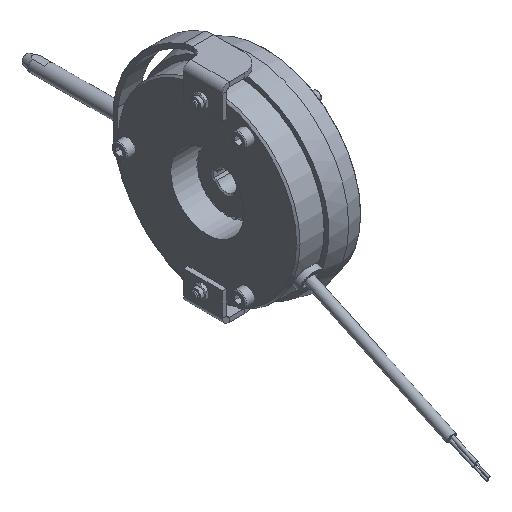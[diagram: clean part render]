
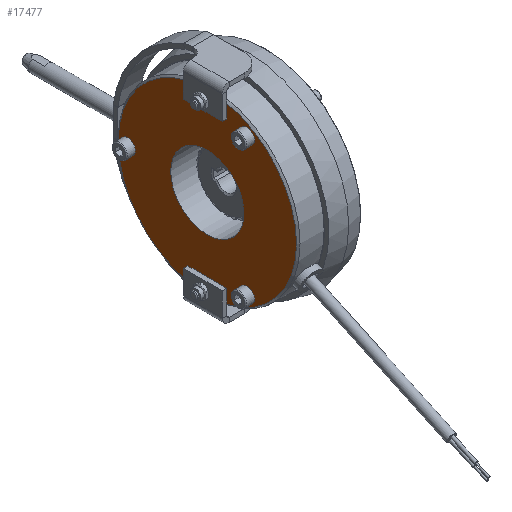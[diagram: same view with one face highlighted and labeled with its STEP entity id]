
A CAD part, isometric view. The second image highlights one B-rep face of the part: STEP entity #17477.
In plain terms, the highlighted planar face has unit normal (-1, 0, 0).
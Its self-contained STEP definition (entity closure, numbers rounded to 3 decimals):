
#199=FACE_BOUND('',#4757,.T.);
#200=FACE_BOUND('',#4758,.T.);
#201=FACE_BOUND('',#4759,.T.);
#202=FACE_BOUND('',#4760,.T.);
#637=PLANE('',#19102);
#1594=LINE('',#35509,#2606);
#1600=LINE('',#35526,#2612);
#1604=LINE('',#35532,#2616);
#1615=LINE('',#35561,#2627);
#1622=LINE('',#35577,#2634);
#1624=LINE('',#35580,#2636);
#2606=VECTOR('',#22901,10.);
#2612=VECTOR('',#22921,10.);
#2616=VECTOR('',#22927,10.);
#2627=VECTOR('',#22956,10.);
#2634=VECTOR('',#22973,10.);
#2636=VECTOR('',#22977,10.);
#3834=FACE_OUTER_BOUND('',#4756,.T.);
#4756=EDGE_LOOP('',(#15529,#15530,#15531,#15532,#15533,#15534,#15535,#15536,
#15537));
#4757=EDGE_LOOP('',(#15538,#15539));
#4758=EDGE_LOOP('',(#15540,#15541));
#4759=EDGE_LOOP('',(#15542,#15543));
#4760=EDGE_LOOP('',(#15544));
#5773=CIRCLE('',#18245,4.25);
#5774=CIRCLE('',#18246,4.25);
#5787=CIRCLE('',#18273,4.25);
#5788=CIRCLE('',#18274,4.25);
#5801=CIRCLE('',#18301,4.25);
#5802=CIRCLE('',#18302,4.25);
#6200=CIRCLE('',#19099,50.5);
#6201=CIRCLE('',#19100,50.5);
#6202=CIRCLE('',#19101,50.5);
#6203=CIRCLE('',#19103,20.75);
#7124=VERTEX_POINT('',#30756);
#7125=VERTEX_POINT('',#30757);
#7151=VERTEX_POINT('',#30848);
#7152=VERTEX_POINT('',#30849);
#7178=VERTEX_POINT('',#30940);
#7179=VERTEX_POINT('',#30941);
#7805=VERTEX_POINT('',#35434);
#7806=VERTEX_POINT('',#35435);
#7834=VERTEX_POINT('',#35506);
#7835=VERTEX_POINT('',#35508);
#7836=VERTEX_POINT('',#35512);
#7839=VERTEX_POINT('',#35525);
#7849=VERTEX_POINT('',#35560);
#7853=VERTEX_POINT('',#35575);
#7935=VERTEX_POINT('',#36019);
#7936=VERTEX_POINT('',#36025);
#9235=EDGE_CURVE('',#7124,#7125,#5773,.T.);
#9236=EDGE_CURVE('',#7125,#7124,#5774,.T.);
#9272=EDGE_CURVE('',#7151,#7152,#5787,.T.);
#9273=EDGE_CURVE('',#7152,#7151,#5788,.T.);
#9309=EDGE_CURVE('',#7178,#7179,#5801,.T.);
#9310=EDGE_CURVE('',#7179,#7178,#5802,.T.);
#10303=EDGE_CURVE('',#7835,#7834,#1594,.T.);
#10312=EDGE_CURVE('',#7839,#7836,#1600,.T.);
#10316=EDGE_CURVE('',#7834,#7839,#1604,.T.);
#10330=EDGE_CURVE('',#7849,#7805,#1615,.T.);
#10339=EDGE_CURVE('',#7806,#7853,#1622,.T.);
#10341=EDGE_CURVE('',#7853,#7849,#1624,.T.);
#10486=EDGE_CURVE('',#7935,#7836,#6200,.T.);
#10487=EDGE_CURVE('',#7835,#7805,#6201,.T.);
#10488=EDGE_CURVE('',#7806,#7935,#6202,.T.);
#10489=EDGE_CURVE('',#7936,#7936,#6203,.T.);
#15529=ORIENTED_EDGE('',*,*,#10312,.T.);
#15530=ORIENTED_EDGE('',*,*,#10486,.F.);
#15531=ORIENTED_EDGE('',*,*,#10488,.F.);
#15532=ORIENTED_EDGE('',*,*,#10339,.T.);
#15533=ORIENTED_EDGE('',*,*,#10341,.T.);
#15534=ORIENTED_EDGE('',*,*,#10330,.T.);
#15535=ORIENTED_EDGE('',*,*,#10487,.F.);
#15536=ORIENTED_EDGE('',*,*,#10303,.T.);
#15537=ORIENTED_EDGE('',*,*,#10316,.T.);
#15538=ORIENTED_EDGE('',*,*,#9235,.T.);
#15539=ORIENTED_EDGE('',*,*,#9236,.T.);
#15540=ORIENTED_EDGE('',*,*,#9272,.T.);
#15541=ORIENTED_EDGE('',*,*,#9273,.T.);
#15542=ORIENTED_EDGE('',*,*,#9309,.T.);
#15543=ORIENTED_EDGE('',*,*,#9310,.T.);
#15544=ORIENTED_EDGE('',*,*,#10489,.T.);
#17477=ADVANCED_FACE('',(#3834,#199,#200,#201,#202),#637,.T.);
#18245=AXIS2_PLACEMENT_3D('',#30758,#21054,#21055);
#18246=AXIS2_PLACEMENT_3D('',#30759,#21056,#21057);
#18273=AXIS2_PLACEMENT_3D('',#30850,#21126,#21127);
#18274=AXIS2_PLACEMENT_3D('',#30851,#21128,#21129);
#18301=AXIS2_PLACEMENT_3D('',#30942,#21198,#21199);
#18302=AXIS2_PLACEMENT_3D('',#30943,#21200,#21201);
#19099=AXIS2_PLACEMENT_3D('',#36021,#23332,#23333);
#19100=AXIS2_PLACEMENT_3D('',#36022,#23334,#23335);
#19101=AXIS2_PLACEMENT_3D('',#36023,#23336,#23337);
#19102=AXIS2_PLACEMENT_3D('',#36024,#23338,#23339);
#19103=AXIS2_PLACEMENT_3D('',#36026,#23340,#23341);
#21054=DIRECTION('center_axis',(1.,0.,0.));
#21055=DIRECTION('ref_axis',(0.,-1.,0.));
#21056=DIRECTION('center_axis',(1.,0.,0.));
#21057=DIRECTION('ref_axis',(0.,-1.,0.));
#21126=DIRECTION('center_axis',(1.,0.,0.));
#21127=DIRECTION('ref_axis',(0.,-0.5,-0.866));
#21128=DIRECTION('center_axis',(1.,0.,0.));
#21129=DIRECTION('ref_axis',(0.,-0.5,-0.866));
#21198=DIRECTION('center_axis',(1.,0.,0.));
#21199=DIRECTION('ref_axis',(0.,-1.,0.));
#21200=DIRECTION('center_axis',(1.,0.,0.));
#21201=DIRECTION('ref_axis',(0.,-1.,0.));
#22901=DIRECTION('',(0.,0.,-1.));
#22921=DIRECTION('',(0.,0.,1.));
#22927=DIRECTION('',(0.,1.,0.));
#22956=DIRECTION('',(0.,0.,-1.));
#22973=DIRECTION('',(0.,0.,1.));
#22977=DIRECTION('',(0.,-1.,0.));
#23332=DIRECTION('center_axis',(1.,0.,0.));
#23333=DIRECTION('ref_axis',(0.,-1.,0.));
#23334=DIRECTION('center_axis',(1.,0.,0.));
#23335=DIRECTION('ref_axis',(0.,-1.,0.));
#23336=DIRECTION('center_axis',(1.,0.,0.));
#23337=DIRECTION('ref_axis',(0.,-1.,0.));
#23338=DIRECTION('center_axis',(-1.,0.,0.));
#23339=DIRECTION('ref_axis',(0.,0.,
1.));
#23340=DIRECTION('center_axis',(1.,0.,0.));
#23341=DIRECTION('ref_axis',(0.,0.,
1.));
#30756=CARTESIAN_POINT('',(-18.2,-26.75,-38.971));
#30757=CARTESIAN_POINT('',(-18.2,-18.25,-38.971));
#30758=CARTESIAN_POINT('Origin',(-18.2,-22.5,-38.971));
#30759=CARTESIAN_POINT('Origin',(-18.2,-22.5,-38.971));
#30848=CARTESIAN_POINT('',(-18.2,42.875,-3.681));
#30849=CARTESIAN_POINT('',(-18.2,47.125,3.681));
#30850=CARTESIAN_POINT('Origin',(-18.2,45.,0.));
#30851=CARTESIAN_POINT('Origin',(-18.2,45.,0.));
#30940=CARTESIAN_POINT('',(-18.2,-26.75,38.971));
#30941=CARTESIAN_POINT('',(-18.2,-18.25,38.971));
#30942=CARTESIAN_POINT('Origin',(-18.2,-22.5,38.971));
#30943=CARTESIAN_POINT('Origin',(-18.2,-22.5,38.971));
#35434=CARTESIAN_POINT('',(-18.2,-11.,-49.287));
#35435=CARTESIAN_POINT('',(-18.2,11.,-49.287));
#35506=CARTESIAN_POINT('',(-18.2,-11.,41.5));
#35508=CARTESIAN_POINT('',(-18.2,-11.,49.287));
#35509=CARTESIAN_POINT('',(-18.2,-11.,27.5));
#35512=CARTESIAN_POINT('',(-18.2,11.,49.287));
#35525=CARTESIAN_POINT('',(-18.2,11.,41.5));
#35526=CARTESIAN_POINT('',(-18.2,11.,27.5));
#35532=CARTESIAN_POINT('',(-18.2,18.375,41.5));
#35560=CARTESIAN_POINT('',(-18.2,-11.,-41.5));
#35561=CARTESIAN_POINT('',(-18.2,-11.,-27.5));
#35575=CARTESIAN_POINT('',(-18.2,11.,-41.5));
#35577=CARTESIAN_POINT('',(-18.2,11.,-27.5));
#35580=CARTESIAN_POINT('',(-18.2,18.375,-41.5));
#36019=CARTESIAN_POINT('',(-18.2,50.5,0.));
#36021=CARTESIAN_POINT('Origin',(-18.2,0.,0.));
#36022=CARTESIAN_POINT('Origin',(-18.2,0.,0.));
#36023=CARTESIAN_POINT('Origin',(-18.2,0.,0.));
#36024=CARTESIAN_POINT('Origin',(-18.2,25.75,0.));
#36025=CARTESIAN_POINT('',(-18.2,0.,-20.75));
#36026=CARTESIAN_POINT('Origin',(-18.2,0.,0.));
